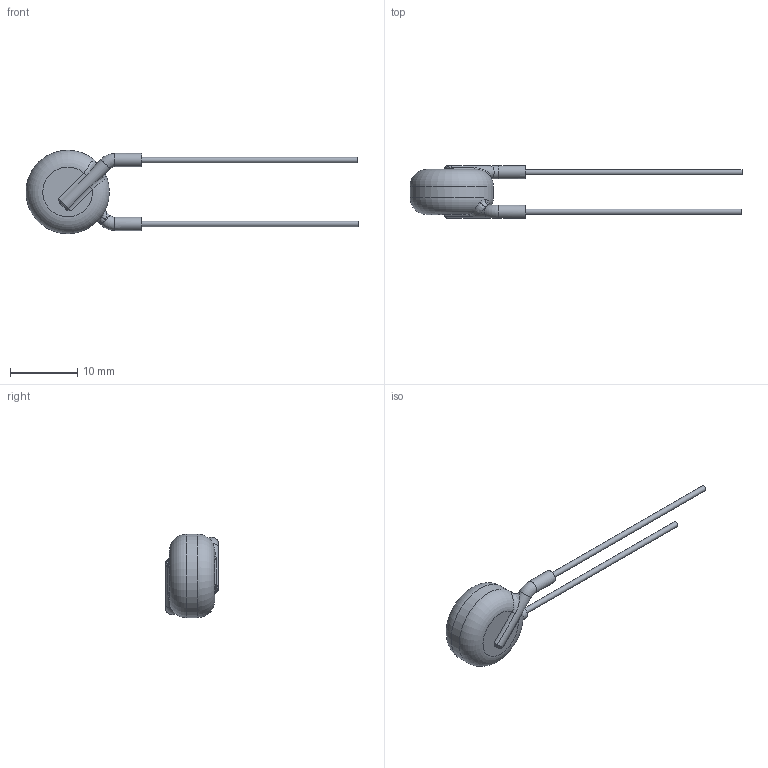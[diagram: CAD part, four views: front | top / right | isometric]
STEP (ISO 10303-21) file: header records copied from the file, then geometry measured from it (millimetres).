
FILE_DESCRIPTION((''),'2;1');
FILE_NAME('I:\Marketing\M6t1\3D-Models\Zchng-Werk-3\Upload for homepage\Ceramite\Y5R-10kV\615R100GAST50\615R100GAST50.stp','2015-08-28T09:38:46',(''),(''),'Autodesk Inventor 2013','Autodesk Inventor 2013','');
FILE_SCHEMA(('AUTOMOTIVE_DESIGN { 1 0 10303 214 1 1 1 1 }'));
Length unit declared in the file: centimetre
Products named in the file (1): 615R100GAST50
Bounding box: 49.4 x 7.87 x 12.4 mm (x, y, z)
Surface area: 671.5 mm2 (no closed solid volume)
Topology: 0 solids, 1 shells, 45 faces, 104 edges, 58 vertices
Faces by surface type: bspline 14, cylinder 13, torus 10, plane 8
Full cylindrical faces by diameter (mm): 0.81 x2, 1.97 x2, 12.4 x1
Entity records: 1644 total; most frequent: CARTESIAN_POINT 729, ORIENTED_EDGE 164, DIRECTION 160, EDGE_CURVE 82, AXIS2_PLACEMENT_3D 74, EDGE_LOOP 56, VERTEX_POINT 50, STYLED_ITEM 46
